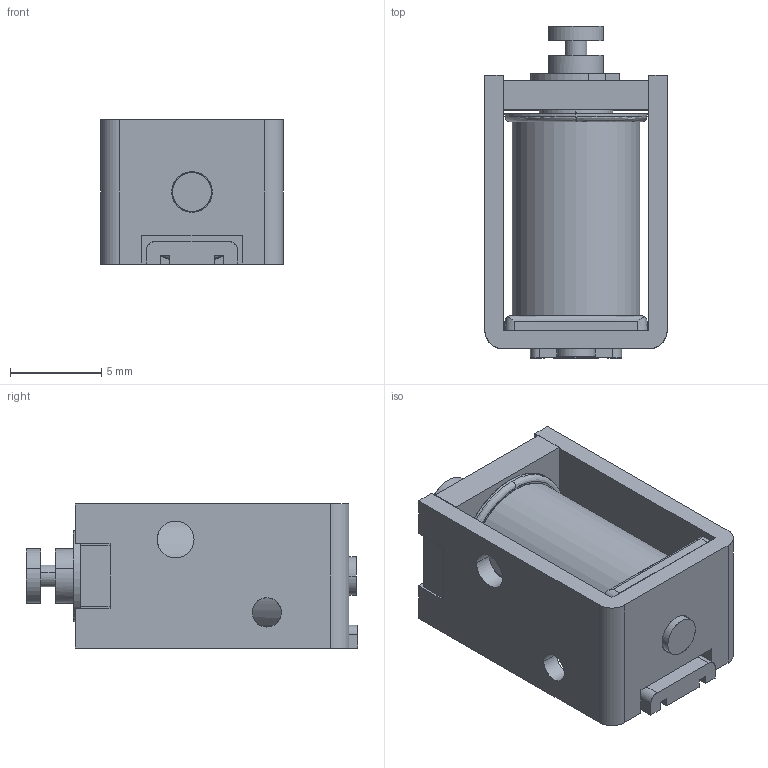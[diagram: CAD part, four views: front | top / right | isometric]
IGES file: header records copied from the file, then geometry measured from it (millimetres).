
Start section: SolidWorks IGES file using analytic representation for surfaces
Global section: file name: L:\カタログ\web用3Dデータ\CA0315\w_ca0315_body.IGS; native system: SolidWorks 2015; preprocessor: SolidWorks 2015; author: yakata; date: 160609.113344; units: millimetre
Bounding box: 10 x 18.2 x 8 mm (x, y, z)
Surface area: 1618.7 mm2 (no closed solid volume)
Topology: 0 solids, 0 shells, 139 faces, 1751 edges, 1751 vertices
Faces by surface type: bspline 84, revolution 55
